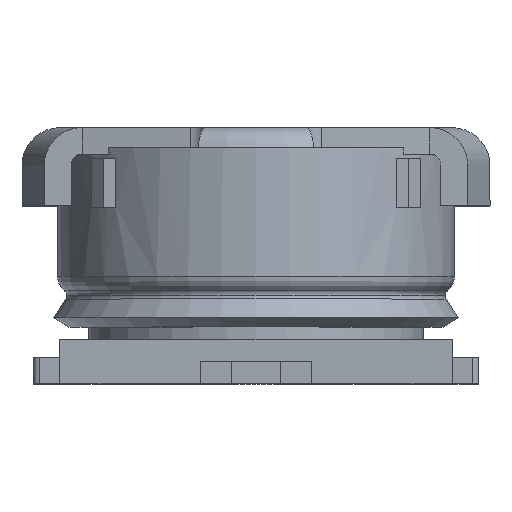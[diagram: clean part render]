
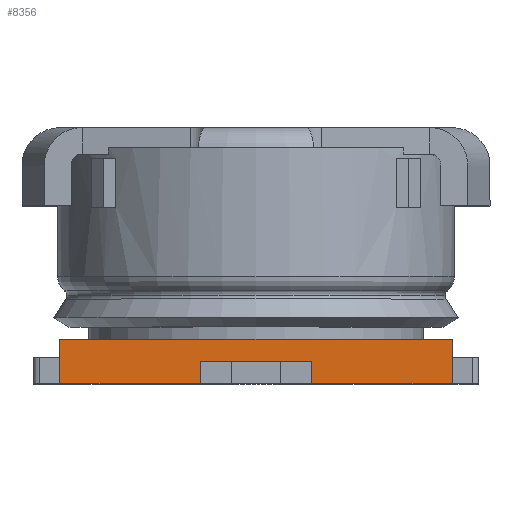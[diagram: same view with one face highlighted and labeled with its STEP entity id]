
A CAD part, top view. The second image highlights one B-rep face of the part: STEP entity #8356.
In plain terms, the highlighted planar face has unit normal (0, 0, 1).
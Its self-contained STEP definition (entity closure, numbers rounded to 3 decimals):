
#391 = ORIENTED_EDGE ( 'NONE', *, *, #1376, .T. ) ;
#703 = ORIENTED_EDGE ( 'NONE', *, *, #1440, .T. ) ;
#1014 = LINE ( 'NONE', #4035, #1822 ) ;
#1066 = VECTOR ( 'NONE', #7475, 1000. ) ;
#1140 = LINE ( 'NONE', #3138, #1066 ) ;
#1167 = EDGE_CURVE ( 'NONE', #2423, #3247, #2141, .T. ) ;
#1203 = EDGE_CURVE ( 'NONE', #3054, #3247, #1140, .T. ) ;
#1219 = EDGE_CURVE ( 'NONE', #3054, #3775, #1014, .T. ) ;
#1277 = CARTESIAN_POINT ( 'NONE',  ( -0.88, 0.2, 0.84 ) ) ;
#1326 = EDGE_CURVE ( 'NONE', #2423, #5539, #12101, .T. ) ;
#1345 = VECTOR ( 'NONE', #6370, 1000. ) ;
#1376 = EDGE_CURVE ( 'NONE', #6000, #3775, #11798, .T. ) ;
#1407 = FACE_OUTER_BOUND ( 'NONE', #2465, .T. ) ;
#1440 = EDGE_CURVE ( 'NONE', #3940, #6000, #11562, .T. ) ;
#1493 = ORIENTED_EDGE ( 'NONE', *, *, #1167, .F. ) ;
#1594 = EDGE_CURVE ( 'NONE', #8305, #5539, #11094, .T. ) ;
#1624 = EDGE_CURVE ( 'NONE', #3940, #8305, #10980, .T. ) ;
#1822 = VECTOR ( 'NONE', #6029, 1000. ) ;
#1904 = CARTESIAN_POINT ( 'NONE',  ( -0.25, 0., 0.84 ) ) ;
#2141 = LINE ( 'NONE', #5765, #1345 ) ;
#2423 = VERTEX_POINT ( 'NONE', #5602 ) ;
#2465 = EDGE_LOOP ( 'NONE', ( #391, #3848, #11249, #1493, #5570, #8316, #11089, #703 ) ) ;
#2547 = CARTESIAN_POINT ( 'NONE',  ( -0.88, 0., 0.84 ) ) ;
#3054 = VERTEX_POINT ( 'NONE', #3873 ) ;
#3138 = CARTESIAN_POINT ( 'NONE',  ( -0.265, 0.1, 0.84 ) ) ;
#3247 = VERTEX_POINT ( 'NONE', #3419 ) ;
#3419 = CARTESIAN_POINT ( 'NONE',  ( 0.25, 0.1, 0.84 ) ) ;
#3680 = DIRECTION ( 'NONE',  ( -1., 0., 0. ) ) ;
#3699 = DIRECTION ( 'NONE',  ( 0., 0., -1. ) ) ;
#3730 = CARTESIAN_POINT ( 'NONE',  ( 0.88, 0.2, 0.84 ) ) ;
#3775 = VERTEX_POINT ( 'NONE', #1904 ) ;
#3798 = PLANE ( 'NONE',  #12063 ) ;
#3848 = ORIENTED_EDGE ( 'NONE', *, *, #1219, .F. ) ;
#3873 = CARTESIAN_POINT ( 'NONE',  ( -0.25, 0.1, 0.84 ) ) ;
#3940 = VERTEX_POINT ( 'NONE', #1277 ) ;
#3949 = DIRECTION ( 'NONE',  ( 1., 0., 0. ) ) ;
#3994 = CARTESIAN_POINT ( 'NONE',  ( 0.88, 0.2, 0.84 ) ) ;
#4035 = CARTESIAN_POINT ( 'NONE',  ( -0.25, 0., 0.84 ) ) ;
#4525 = CARTESIAN_POINT ( 'NONE',  ( 0.88, 0., 0.84 ) ) ;
#5429 = CARTESIAN_POINT ( 'NONE',  ( 0.88, 0., 0.84 ) ) ;
#5433 = DIRECTION ( 'NONE',  ( 0., -1., 0. ) ) ;
#5539 = VERTEX_POINT ( 'NONE', #5429 ) ;
#5570 = ORIENTED_EDGE ( 'NONE', *, *, #1326, .T. ) ;
#5602 = CARTESIAN_POINT ( 'NONE',  ( 0.25, 0., 0.84 ) ) ;
#5765 = CARTESIAN_POINT ( 'NONE',  ( 0.25, 0., 0.84 ) ) ;
#5978 = CARTESIAN_POINT ( 'NONE',  ( -0.88, 0.2, 0.84 ) ) ;
#6000 = VERTEX_POINT ( 'NONE', #2547 ) ;
#6029 = DIRECTION ( 'NONE',  ( 0., -1., 0. ) ) ;
#6370 = DIRECTION ( 'NONE',  ( 0., 1., 0. ) ) ;
#7475 = DIRECTION ( 'NONE',  ( 1., 0., 0. ) ) ;
#8305 = VERTEX_POINT ( 'NONE', #3994 ) ;
#8316 = ORIENTED_EDGE ( 'NONE', *, *, #1594, .F. ) ;
#8356 = ADVANCED_FACE ( 'NONE', ( #1407 ), #3798, .F. ) ;
#10558 = CARTESIAN_POINT ( 'NONE',  ( 0.88, 0.2, 0.84 ) ) ;
#10598 = DIRECTION ( 'NONE',  ( 1., 0., 0. ) ) ;
#10980 = LINE ( 'NONE', #10558, #10998 ) ;
#10998 = VECTOR ( 'NONE', #10598, 1000. ) ;
#11081 = VECTOR ( 'NONE', #11588, 1000. ) ;
#11089 = ORIENTED_EDGE ( 'NONE', *, *, #1624, .F. ) ;
#11094 = LINE ( 'NONE', #11607, #11081 ) ;
#11249 = ORIENTED_EDGE ( 'NONE', *, *, #1203, .T. ) ;
#11517 = VECTOR ( 'NONE', #5433, 1000. ) ;
#11553 = CARTESIAN_POINT ( 'NONE',  ( 0.88, 0., 0.84 ) ) ;
#11562 = LINE ( 'NONE', #5978, #11517 ) ;
#11588 = DIRECTION ( 'NONE',  ( 0., -1., 0. ) ) ;
#11607 = CARTESIAN_POINT ( 'NONE',  ( 0.88, 0.2, 0.84 ) ) ;
#11651 = DIRECTION ( 'NONE',  ( 1., 0., 0. ) ) ;
#11786 = VECTOR ( 'NONE', #11651, 1000. ) ;
#11798 = LINE ( 'NONE', #11553, #11786 ) ;
#11909 = VECTOR ( 'NONE', #3949, 1000. ) ;
#12063 = AXIS2_PLACEMENT_3D ( 'NONE', #3730, #3699, #3680 ) ;
#12101 = LINE ( 'NONE', #4525, #11909 ) ;
